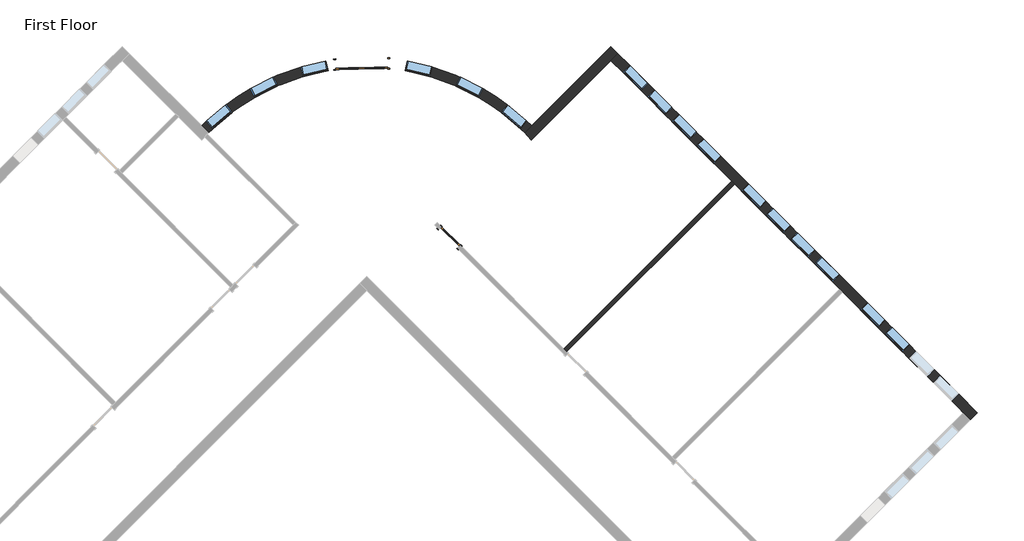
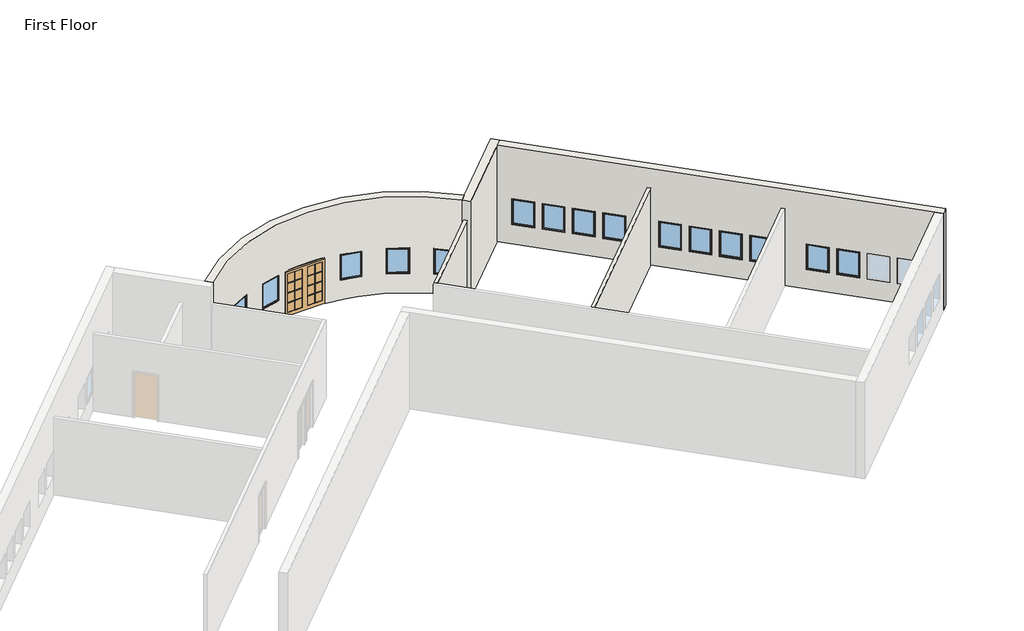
# One storey, part 2 of 2: 16 windows, 5 walls, 2 doors.
"""IFC4 building model written with IfcOpenShell, lengths in millimetres."""

from ifc_helpers import new_model, si_unit, point, frame, frame_2d, origin, origin_with_axes, place, context, project, spatial, polyline, circle_curve, trimmed, segment, composite_curve, outline, extrude, faceted_brep, transform, mapped, element, save
from ifc_brep_helpers import plane_surface, cylinder_surface, revolved_surface, advanced_brep
from components import m_double_glass_2_1830_x_2134mm_ef281dce, m_single_glass_1_0915_x_2134mm_4e5e1233, m_fixed_0915_x_1220mm_bde29121, m_fixed_0915_x_1220mm_2a2509e7

model = new_model("IFC4")

# Units and contexts
model_context = context("Model", 3, world=origin())
ifc_project = project(units=[si_unit("LENGTHUNIT", "METRE", prefix="MILLI")], contexts=[model_context])

# Site, building, storey
site = spatial("IfcSite", under=ifc_project)
building = spatial("IfcBuilding", under=site)
storey = spatial("IfcBuildingStorey", under=building, Name="First Floor", Elevation=0.0)

# Doors
placement = place(None, origin())
m_double_glass_2_1830_x_2134mm_shape = m_double_glass_2_1830_x_2134mm_ef281dce(model_context)
element("IfcDoor", 1, ObjectType="M_Double-Glass 2 : 1830 x 2134mm", at=placement, inside=storey, context=model_context, shape_type="MappedRepresentation", body=[
    mapped(m_double_glass_2_1830_x_2134mm_shape, transform((-1775.1372024, 9996.7407669, 0.0), x_axis=(-0.9997639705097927, -0.021725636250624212, 0.0), y_axis=(0.021725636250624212, -0.9997639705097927, 0.0), z_axis=(0.0, 0.0, 1.0))),
])
m_single_glass_1_0915_x_2134mm_shape = m_single_glass_1_0915_x_2134mm_4e5e1233(model_context)
element("IfcDoor", 2, ObjectType="M_Single-Glass 1 : 0915 x 2134mm", at=placement, inside=storey, context=model_context, shape_type="MappedRepresentation", body=[
    mapped(m_single_glass_1_0915_x_2134mm_shape, transform((1324.7621646, 3874.1421405, 0.0), x_axis=(-0.7071067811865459, 0.7071067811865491, 0.0), y_axis=(-0.7071067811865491, -0.7071067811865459, 0.0), z_axis=(0.0, 0.0, 1.0))),
])

# Walls
element("IfcWall", 3, ObjectType="Exterior - Brick on Mtl. Stud", at=placement, inside=storey, context=model_context, shape_type="AdvancedBrep", body=[
    advanced_brep(
    [(4212.7441701, 7313.6674352, 4572.0), (4212.7441701, 7313.6674352, 0.0), (7019.8001803, 10120.7234455, 0.0), (7267.2875537, 10368.2108189, 0.0), (7267.2875537, 10368.2108189, 4572.0), (7019.8001803, 10120.7234455, 4572.0), (3970.7557398, 7566.6537518, 0.0), (3970.7557398, 7566.6537518, 4572.0), (4218.2431133, 7814.1411252, 4572.0), (7019.8001803, 10615.6981923, 4572.0), (7019.8001803, 10615.6981923, 0.0), (4218.2431133, 7814.1411252, 0.0), (4109.8638796, 7423.9826013, 0.0), (4013.5506313, 7523.5275434, 0.0)],
    [
        (0, 1),
        (1, 2),
        (2, 3),
        (3, 4),
        (4, 5),
        (5, 0),
        (6, 7),
        (7, 8),
        (8, 9),
        (9, 10),
        (10, 11),
        (11, 6),
        (1, 12, circle_curve(frame((-1601.2456959, 1994.6523161, 0.0), z_axis=(0.0, 0.0, 1.0), x_axis=(1.0, 0.0, 0.0)), 7880.0)),
        (12, 13, circle_curve(frame((-1601.2456959, 1994.6523161, 0.0), z_axis=(0.0, 0.0, 1.0), x_axis=(1.0, 0.0, 0.0)), 7879.9999955)),
        (13, 6, circle_curve(frame((-1601.2456959, 1994.6523161, 0.0), z_axis=(0.0, 0.0, 1.0), x_axis=(1.0, 0.0, 0.0)), 7879.9999413)),
        (10, 3),
        (4, 9),
        (7, 0, circle_curve(frame((-1601.2456959, 1994.6523161, 4572.0), z_axis=(0.0, 0.0, -1.0), x_axis=(1.0, 0.0, 0.0)), 7880.0)),
    ],
    [
        plane_surface(frame((4250.0629184, 7350.9861836, 0.0), z_axis=(0.7071067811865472, -0.7071067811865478, 0.0), x_axis=(0.7071067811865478, 0.7071067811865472, 0.0))),
        plane_surface(frame((4002.575545, 7598.473557, 0.0), z_axis=(-0.7071067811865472, 0.7071067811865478, 0.0), x_axis=(-0.7071067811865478, -0.7071067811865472, 0.0))),
        plane_surface(frame((4340.6424361, 7441.5657013, 0.0), z_axis=(0.0, 0.0, -1.0), x_axis=(-0.7071067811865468, 0.7071067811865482, 0.0))),
        plane_surface(frame((7143.543867, 10244.4671322, 4572.0), z_axis=(0.0, 0.0, 1.0), x_axis=(-0.707106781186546, 0.7071067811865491, 0.0))),
        plane_surface(frame((7019.8001803, 10615.6981923, 0.0), z_axis=(0.7071067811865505, 0.7071067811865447, 0.0), x_axis=(-0.7071067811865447, 0.7071067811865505, 0.0))),
        revolved_surface(polyline([(6278.7543041, 1994.6523161, 0.0), (6278.7543041, 1994.6523161, 4572.0)]), (-1601.2456959, 1994.6523161, 0.0), (0.0, 0.0, -1.0)),
    ],
    [
        (0, [[1, 2, 3, 4, 5, 6]]),
        (1, [[7, 8, 9, 10, 11, 12]]),
        (2, [[-3, -2, 13, 14, 15, -12, -11, 16]]),
        (3, [[-6, -5, 17, -9, -8, 18]]),
        (4, [[-4, -16, -10, -17]]),
        (5, [[-18, -7, -15, -14, -13, -1]]),
    ],
),
])
element("IfcWall", 4, ObjectType="Exterior - Brick on Mtl. Stud", at=placement, inside=storey, context=model_context, shape_type="Brep", body=[
    faceted_brep([(7019.8001803, 10120.7234455, 0.0), (11281.3559738, 5859.167652, 0.0), (11379.290263, 5761.2333628, 0.0), (15096.9041651, 2043.6194607, 0.0), (15194.8384543, 1945.6851715, 0.0), (19456.3942478, -2315.870622, 0.0), (19703.8816212, -2563.3579955, 0.0), (19703.8816212, -2563.3579955, 4572.0), (19456.3942478, -2315.870622, 4572.0), (7019.8001803, 10120.7234455, 4572.0), (19041.6761207, -1901.1524949, 915.0), (18394.6734159, -1254.1497901, 915.0), (18394.6734159, -1254.1497901, 2135.0), (19041.6761207, -1901.1524949, 2135.0), (18179.7129544, -1039.1893286, 915.0), (17532.7102496, -392.1866238, 915.0), (17532.7102496, -392.1866238, 2135.0), (18179.7129544, -1039.1893286, 2135.0), (17317.7497881, -177.2261623, 915.0), (16670.7470833, 469.7765424, 915.0), (16670.7470833, 469.7765424, 2135.0), (17317.7497881, -177.2261623, 2135.0), (16455.7866219, 684.7370039, 915.0), (15808.7839171, 1331.7397087, 915.0), (15808.7839171, 1331.7397087, 2135.0), (16455.7866219, 684.7370039, 2135.0), (12257.1680181, 4883.3556077, 915.0), (11610.1653133, 5530.3583124, 915.0), (11610.1653133, 5530.3583124, 2135.0), (12257.1680181, 4883.3556077, 2135.0), (13119.1311844, 4021.3924414, 915.0), (12472.1284796, 4668.3951462, 915.0), (12472.1284796, 4668.3951462, 2135.0), (13119.1311844, 4021.3924414, 2135.0), (13981.0943507, 3159.4292751, 915.0), (13334.0916459, 3806.4319799, 915.0), (13334.0916459, 3806.4319799, 2135.0), (13981.0943507, 3159.4292751, 2135.0), (14843.0575169, 2297.4661089, 915.0), (14196.0548121, 2944.4688136, 915.0), (14196.0548121, 2944.4688136, 2135.0), (14843.0575169, 2297.4661089, 2135.0), (8081.5210123, 9059.0026135, 915.0), (7434.5183075, 9706.0053183, 915.0), (7434.5183075, 9706.0053183, 2135.0), (8081.5210123, 9059.0026135, 2135.0), (8943.4841785, 8197.0394473, 915.0), (8296.4814737, 8844.042152, 915.0), (8296.4814737, 8844.042152, 2135.0), (8943.4841785, 8197.0394473, 2135.0), (9805.4473448, 7335.076281, 915.0), (9158.44464, 7982.0789858, 915.0), (9158.44464, 7982.0789858, 2135.0), (9805.4473448, 7335.076281, 2135.0), (10667.4105111, 6473.1131147, 915.0), (10020.4078063, 7120.1158195, 915.0), (10020.4078063, 7120.1158195, 2135.0), (10667.4105111, 6473.1131147, 2135.0), (7267.2875537, 10368.2108189, 0.0), (7267.2875537, 10368.2108189, 4572.0), (19951.3689947, -2315.870622, 4572.0), (19951.3689947, -2315.870622, 0.0), (19289.1634941, -1653.6651215, 915.0), (19289.1634941, -1653.6651215, 2135.0), (18642.1607893, -1006.6624167, 2135.0), (18642.1607893, -1006.6624167, 915.0), (18427.2003278, -791.7019552, 915.0), (18427.2003278, -791.7019552, 2135.0), (17780.197623, -144.6992504, 2135.0), (17780.197623, -144.6992504, 915.0), (17565.2371615, 70.2612111, 915.0), (17565.2371615, 70.2612111, 2135.0), (16918.2344568, 717.2639159, 2135.0), (16918.2344568, 717.2639159, 915.0), (16703.2739953, 932.2243773, 915.0), (16703.2739953, 932.2243773, 2135.0), (16056.2712905, 1579.2270821, 2135.0), (16056.2712905, 1579.2270821, 915.0), (12504.6553915, 5130.8429811, 915.0), (12504.6553915, 5130.8429811, 2135.0), (11857.6526868, 5777.8456859, 2135.0), (11857.6526868, 5777.8456859, 915.0), (13366.6185578, 4268.8798148, 915.0), (13366.6185578, 4268.8798148, 2135.0), (12719.615853, 4915.8825196, 2135.0), (12719.615853, 4915.8825196, 915.0), (14228.5817241, 3406.9166485, 915.0), (14228.5817241, 3406.9166485, 2135.0), (13581.5790193, 4053.9193533, 2135.0), (13581.5790193, 4053.9193533, 915.0), (15090.5448903, 2544.9534823, 915.0), (15090.5448903, 2544.9534823, 2135.0), (14443.5421856, 3191.9561871, 2135.0), (14443.5421856, 3191.9561871, 915.0), (8329.0083857, 9306.4899869, 915.0), (8329.0083857, 9306.4899869, 2135.0), (7682.0056809, 9953.4926917, 2135.0), (7682.0056809, 9953.4926917, 915.0), (9190.971552, 8444.5268207, 915.0), (9190.971552, 8444.5268207, 2135.0), (8543.9688472, 9091.5295255, 2135.0), (8543.9688472, 9091.5295255, 915.0), (10052.9347182, 7582.5636544, 915.0), (10052.9347182, 7582.5636544, 2135.0), (9405.9320134, 8229.5663592, 2135.0), (9405.9320134, 8229.5663592, 915.0), (10914.8978845, 6720.6004881, 915.0), (10914.8978845, 6720.6004881, 2135.0), (10267.8951797, 7367.6031929, 2135.0), (10267.8951797, 7367.6031929, 915.0)], [[[0, 1, 2, 3, 4, 5, 6, 7, 8, 9], [10, 11, 12, 13], [14, 15, 16, 17], [18, 19, 20, 21], [22, 23, 24, 25], [26, 27, 28, 29], [30, 31, 32, 33], [34, 35, 36, 37], [38, 39, 40, 41], [42, 43, 44, 45], [46, 47, 48, 49], [50, 51, 52, 53], [54, 55, 56, 57]], [[58, 59, 60, 61], [62, 63, 64, 65], [66, 67, 68, 69], [70, 71, 72, 73], [74, 75, 76, 77], [78, 79, 80, 81], [82, 83, 84, 85], [86, 87, 88, 89], [90, 91, 92, 93], [94, 95, 96, 97], [98, 99, 100, 101], [102, 103, 104, 105], [106, 107, 108, 109]], [[6, 5, 4, 3, 2, 1, 0, 58, 61]], [[9, 8, 7, 60, 59]], [[0, 9, 59, 58]], [[7, 6, 61, 60]], [[63, 62, 10, 13]], [[64, 63, 13, 12]], [[65, 64, 12, 11]], [[62, 65, 11, 10]], [[67, 66, 14, 17]], [[68, 67, 17, 16]], [[69, 68, 16, 15]], [[66, 69, 15, 14]], [[71, 70, 18, 21]], [[72, 71, 21, 20]], [[73, 72, 20, 19]], [[70, 73, 19, 18]], [[75, 74, 22, 25]], [[76, 75, 25, 24]], [[77, 76, 24, 23]], [[74, 77, 23, 22]], [[79, 78, 26, 29]], [[80, 79, 29, 28]], [[81, 80, 28, 27]], [[78, 81, 27, 26]], [[83, 82, 30, 33]], [[84, 83, 33, 32]], [[85, 84, 32, 31]], [[82, 85, 31, 30]], [[87, 86, 34, 37]], [[88, 87, 37, 36]], [[89, 88, 36, 35]], [[86, 89, 35, 34]], [[91, 90, 38, 41]], [[92, 91, 41, 40]], [[93, 92, 40, 39]], [[90, 93, 39, 38]], [[95, 94, 42, 45]], [[96, 95, 45, 44]], [[97, 96, 44, 43]], [[94, 97, 43, 42]], [[99, 98, 46, 49]], [[100, 99, 49, 48]], [[101, 100, 48, 47]], [[98, 101, 47, 46]], [[103, 102, 50, 53]], [[104, 103, 53, 52]], [[105, 104, 52, 51]], [[102, 105, 51, 50]], [[107, 106, 54, 57]], [[108, 107, 57, 56]], [[109, 108, 56, 55]], [[106, 109, 55, 54]]]),
])
element("IfcWall", 5, ObjectType="Exterior - Brick on Mtl. Stud", at=placement, inside=storey, context=model_context, shape_type="AdvancedBrep", body=[
    advanced_brep(
    [(4218.2431133, 7814.1411252, 4572.0), (-7420.7345051, 7814.1411252, 4572.0), (-7173.2471317, 7566.6537518, 4572.0), (3970.7557398, 7566.6537518, 4572.0), (-7173.2471317, 7566.6537518, 0.0), (-7420.7345051, 7814.1411252, 0.0), (-2693.7232217, 10151.8205046, 0.0), (-2686.0696858, 9799.6223295, 0.0), (4218.2431133, 7814.1411252, 0.0), (3970.7557398, 7566.6537518, 0.0), (-856.5016198, 9839.3802439, 0.0), (-864.1551557, 10191.5784189, 0.0), (-864.1551557, 10191.5784189, 2134.0), (-2693.7232217, 10151.8205046, 2134.0), (-6560.8584073, 8562.3872188, 915.0), (-6560.8584073, 8562.3872188, 2135.0), (-7259.2688911, 7971.2461222, 2135.0), (-7259.2688911, 7971.2461222, 915.0), (-3038.6037285, 10098.1640169, 915.0), (-3038.6037285, 10098.1640169, 2135.0), (-3929.264468, 9888.5251676, 2135.0), (-3929.264468, 9888.5251676, 915.0), (-4890.6166492, 9538.7187747, 915.0), (-4890.6166492, 9538.7187747, 2135.0), (-5707.7291441, 9126.9516431, 2135.0), (-5707.7291441, 9126.9516431, 915.0), (1688.1252574, 9538.7187747, 2135.0), (1688.1252574, 9538.7187747, 915.0), (2505.2377523, 9126.9516431, 915.0), (2505.2377523, 9126.9516431, 2135.0), (-163.8876633, 10098.1640169, 2135.0), (-163.8876633, 10098.1640169, 915.0), (726.7730762, 9888.5251676, 915.0), (726.7730762, 9888.5251676, 2135.0), (3358.3670155, 8562.3872188, 2135.0), (3358.3670155, 8562.3872188, 915.0), (4056.7774992, 7971.2461222, 915.0), (4056.7774992, 7971.2461222, 2135.0), (-2686.0696858, 9799.6223295, 2134.0), (-856.5016198, 9839.3802439, 2134.0), (-6334.373084, 8294.8035149, 915.0), (-7032.7835678, 7703.6624182, 915.0), (-7032.7835678, 7703.6624182, 2135.0), (-6334.373084, 8294.8035149, 2135.0), (-2958.2842873, 9756.9230059, 2135.0), (-2958.2842873, 9756.9230059, 915.0), (-3848.9450268, 9547.2841566, 915.0), (-3848.9450268, 9547.2841566, 2135.0), (-4732.8553085, 9225.6564811, 2135.0), (-4732.8553085, 9225.6564811, 915.0), (-5549.9678034, 8813.8893495, 915.0), (-5549.9678034, 8813.8893495, 2135.0), (1530.3639167, 9225.6564811, 915.0), (1530.3639167, 9225.6564811, 2135.0), (2347.4764116, 8813.8893495, 2135.0), (2347.4764116, 8813.8893495, 915.0), (-244.2071045, 9756.9230059, 915.0), (-244.2071045, 9756.9230059, 2135.0), (646.453635, 9547.2841566, 2135.0), (646.453635, 9547.2841566, 915.0), (3131.8816922, 8294.8035149, 915.0), (3131.8816922, 8294.8035149, 2135.0), (3830.2921759, 7703.6624182, 2135.0), (3830.2921759, 7703.6624182, 915.0)],
    [
        (0, 1, circle_curve(frame((-1601.2456959, 1994.6523161, 4572.0), z_axis=(0.0, 0.0, 1.0), x_axis=(1.0, 0.0, 0.0)), 8230.0)),
        (1, 2),
        (2, 3, circle_curve(frame((-1601.2456959, 1994.6523161, 4572.0), z_axis=(0.0, 0.0, -1.0), x_axis=(1.0, 0.0, 0.0)), 7880.0)),
        (3, 0),
        (4, 5),
        (5, 6, circle_curve(frame((-1601.2456959, 1994.6523161, 0.0), z_axis=(0.0, 0.0, -1.0), x_axis=(1.0, 0.0, 0.0)), 8230.0)),
        (6, 7),
        (7, 4, circle_curve(frame((-1601.2456959, 1994.6523161, 0.0), z_axis=(0.0, 0.0, 1.0), x_axis=(1.0, 0.0, 0.0)), 7880.0)),
        (8, 9),
        (9, 10, circle_curve(frame((-1601.2456959, 1994.6523161, 0.0), z_axis=(0.0, 0.0, 1.0), x_axis=(1.0, 0.0, 0.0)), 7880.0)),
        (10, 11),
        (11, 8, circle_curve(frame((-1601.2456959, 1994.6523161, 0.0), z_axis=(0.0, 0.0, -1.0), x_axis=(1.0, 0.0, 0.0)), 8230.0)),
        (0, 8),
        (11, 12),
        (12, 13, circle_curve(frame((-1601.2456959, 1994.6523161, 2134.0), z_axis=(0.0, 0.0, 1.0), x_axis=(1.0, 0.0, 0.0)), 8230.0)),
        (13, 6),
        (5, 1),
        (14, 15),
        (15, 16, circle_curve(frame((-1601.2456959, 1994.6523161, 2135.0), z_axis=(0.0, 0.0, 1.0), x_axis=(1.0, 0.0, 0.0)), 8230.0)),
        (16, 17),
        (17, 14, circle_curve(frame((-1601.2456959, 1994.6523161, 915.0), z_axis=(0.0, 0.0, -1.0), x_axis=(1.0, 0.0, 0.0)), 8230.0)),
        (18, 19),
        (19, 20, circle_curve(frame((-1601.2456959, 1994.6523161, 2135.0), z_axis=(0.0, 0.0, 1.0), x_axis=(1.0, 0.0, 0.0)), 8230.0)),
        (20, 21),
        (21, 18, circle_curve(frame((-1601.2456959, 1994.6523161, 915.0), z_axis=(0.0, 0.0, -1.0), x_axis=(1.0, 0.0, 0.0)), 8230.0)),
        (22, 23),
        (23, 24, circle_curve(frame((-1601.2456959, 1994.6523161, 2135.0), z_axis=(0.0, 0.0, 1.0), x_axis=(1.0, 0.0, 0.0)), 8230.0)),
        (24, 25),
        (25, 22, circle_curve(frame((-1601.2456959, 1994.6523161, 915.0), z_axis=(0.0, 0.0, -1.0), x_axis=(1.0, 0.0, 0.0)), 8230.0)),
        (26, 27),
        (27, 28, circle_curve(frame((-1601.2456959, 1994.6523161, 915.0), z_axis=(0.0, 0.0, -1.0), x_axis=(1.0, 0.0, 0.0)), 8230.0)),
        (28, 29),
        (29, 26, circle_curve(frame((-1601.2456959, 1994.6523161, 2135.0), z_axis=(0.0, 0.0, 1.0), x_axis=(1.0, 0.0, 0.0)), 8230.0)),
        (30, 31),
        (31, 32, circle_curve(frame((-1601.2456959, 1994.6523161, 915.0), z_axis=(0.0, 0.0, -1.0), x_axis=(1.0, 0.0, 0.0)), 8230.0)),
        (32, 33),
        (33, 30, circle_curve(frame((-1601.2456959, 1994.6523161, 2135.0), z_axis=(0.0, 0.0, 1.0), x_axis=(1.0, 0.0, 0.0)), 8230.0)),
        (34, 35),
        (35, 36, circle_curve(frame((-1601.2456959, 1994.6523161, 915.0), z_axis=(0.0, 0.0, -1.0), x_axis=(1.0, 0.0, 0.0)), 8230.0)),
        (36, 37),
        (37, 34, circle_curve(frame((-1601.2456959, 1994.6523161, 2135.0), z_axis=(0.0, 0.0, 1.0), x_axis=(1.0, 0.0, 0.0)), 8230.0)),
        (2, 4),
        (7, 38),
        (38, 39, circle_curve(frame((-1601.2456959, 1994.6523161, 2134.0), z_axis=(0.0, 0.0, -1.0), x_axis=(1.0, 0.0, 0.0)), 7880.0)),
        (39, 10),
        (9, 3),
        (40, 41, circle_curve(frame((-1601.2456959, 1994.6523161, 915.0), z_axis=(0.0, 0.0, 1.0), x_axis=(1.0, 0.0, 0.0)), 7880.0)),
        (41, 42),
        (42, 43, circle_curve(frame((-1601.2456959, 1994.6523161, 2135.0), z_axis=(0.0, 0.0, -1.0), x_axis=(1.0, 0.0, 0.0)), 7880.0)),
        (43, 40),
        (44, 45),
        (45, 46, circle_curve(frame((-1601.2456959, 1994.6523161, 915.0), z_axis=(0.0, 0.0, 1.0), x_axis=(1.0, 0.0, 0.0)), 7880.0)),
        (46, 47),
        (47, 44, circle_curve(frame((-1601.2456959, 1994.6523161, 2135.0), z_axis=(0.0, 0.0, -1.0), x_axis=(1.0, 0.0, 0.0)), 7880.0)),
        (48, 49),
        (49, 50, circle_curve(frame((-1601.2456959, 1994.6523161, 915.0), z_axis=(0.0, 0.0, 1.0), x_axis=(1.0, 0.0, 0.0)), 7880.0)),
        (50, 51),
        (51, 48, circle_curve(frame((-1601.2456959, 1994.6523161, 2135.0), z_axis=(0.0, 0.0, -1.0), x_axis=(1.0, 0.0, 0.0)), 7880.0)),
        (52, 53),
        (53, 54, circle_curve(frame((-1601.2456959, 1994.6523161, 2135.0), z_axis=(0.0, 0.0, -1.0), x_axis=(1.0, 0.0, 0.0)), 7880.0)),
        (54, 55),
        (55, 52, circle_curve(frame((-1601.2456959, 1994.6523161, 915.0), z_axis=(0.0, 0.0, 1.0), x_axis=(1.0, 0.0, 0.0)), 7880.0)),
        (56, 57),
        (57, 58, circle_curve(frame((-1601.2456959, 1994.6523161, 2135.0), z_axis=(0.0, 0.0, -1.0), x_axis=(1.0, 0.0, 0.0)), 7880.0)),
        (58, 59),
        (59, 56, circle_curve(frame((-1601.2456959, 1994.6523161, 915.0), z_axis=(0.0, 0.0, 1.0), x_axis=(1.0, 0.0, 0.0)), 7880.0)),
        (60, 61),
        (61, 62, circle_curve(frame((-1601.2456959, 1994.6523161, 2135.0), z_axis=(0.0, 0.0, -1.0), x_axis=(1.0, 0.0, 0.0)), 7880.0)),
        (62, 63),
        (63, 60, circle_curve(frame((-1601.2456959, 1994.6523161, 915.0), z_axis=(0.0, 0.0, 1.0), x_axis=(1.0, 0.0, 0.0)), 7880.0)),
        (13, 38),
        (12, 39),
        (14, 40),
        (43, 15),
        (42, 16),
        (41, 17),
        (18, 45),
        (44, 19),
        (47, 20),
        (46, 21),
        (22, 49),
        (48, 23),
        (51, 24),
        (50, 25),
        (52, 27),
        (26, 53),
        (29, 54),
        (28, 55),
        (56, 31),
        (30, 57),
        (33, 58),
        (32, 59),
        (60, 35),
        (34, 61),
        (37, 62),
        (36, 63),
    ],
    [
        plane_surface(frame((6628.7543041, 1994.6523161, 4572.0), z_axis=(0.0, 0.0, 1.0), x_axis=(0.0, 1.0, 0.0))),
        plane_surface(frame((6628.7543041, 1994.6523161, 0.0), z_axis=(0.0, 0.0, -1.0), x_axis=(0.0, -1.0, 0.0))),
        cylinder_surface(frame((-1601.2456959, 1994.6523161, 0.0), z_axis=(0.0, 0.0, 1.0), x_axis=(1.0, 0.0, 0.0)), 8230.0),
        revolved_surface(polyline([(6278.7543041, 1994.6523161, 0.0), (6278.7543041, 1994.6523161, 4572.0)]), (-1601.2456959, 1994.6523161, 0.0), (0.0, 0.0, -1.0)),
        plane_surface(frame((-10222.2915721, 10615.6981923, 0.0), z_axis=(-0.7071067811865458, -0.7071067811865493, 0.0), x_axis=(-0.7071067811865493, 0.7071067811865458, 0.0))),
        plane_surface(frame((4002.575545, 7598.473557, 0.0), z_axis=(0.7071067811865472, -0.7071067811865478, 0.0), x_axis=(-0.7071067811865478, -0.7071067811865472, 0.0))),
        plane_surface(frame((-2726.8330914, 11675.4607956, 0.0), z_axis=(0.9997639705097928, 0.021725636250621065, 0.0), x_axis=(0.021725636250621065, -0.9997639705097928, 0.0))),
        plane_surface(frame((-2726.8330914, 11675.4607956, 2134.0), z_axis=(0.0, 0.0, -1.0000000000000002), x_axis=(0.021725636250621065, -0.9997639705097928, 0.0))),
        plane_surface(frame((-897.2650253, 11715.21871, 2134.0), z_axis=(-0.9997639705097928, -0.021725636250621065, 0.0), x_axis=(0.021725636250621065, -0.9997639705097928, 0.0))),
        plane_surface(frame((-6560.8584073, 8562.3872188, 915.0), z_axis=(-0.7632901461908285, -0.6460558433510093, 0.0), x_axis=(0.6460558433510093, -0.7632901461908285, 0.0))),
        plane_surface(frame((-6560.8584073, 8562.3872188, 2135.0), z_axis=(0.0, 0.0, -1.0000000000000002), x_axis=(0.6460558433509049, -0.7632901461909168, 0.0))),
        plane_surface(frame((-7259.2688911, 7971.2461222, 2135.0), z_axis=(0.7632901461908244, 0.6460558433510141, 0.0), x_axis=(0.6460558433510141, -0.7632901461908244, 0.0))),
        plane_surface(frame((-7259.2688911, 7971.2461222, 915.0), z_axis=(0.0, 0.0, 1.0), x_axis=(0.6460558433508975, -0.7632901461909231, 0.0))),
        plane_surface(frame((-2689.4347599, 8614.7028508, 915.0), z_axis=(-0.9733997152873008, -0.22911349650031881, 0.0), x_axis=(-0.22911349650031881, 0.9733997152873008, 0.0))),
        plane_surface(frame((-2689.4347599, 8614.7028508, 2135.0), z_axis=(0.0, 0.0, -1.0), x_axis=(-0.22911349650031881, 0.9733997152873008, 0.0))),
        plane_surface(frame((-3580.0954993, 8405.0640015, 2135.0), z_axis=(0.9733997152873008, 0.2291134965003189, 0.0), x_axis=(-0.2291134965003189, 0.9733997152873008, 0.0))),
        plane_surface(frame((-3580.0954993, 8405.0640015, 915.0), z_axis=(0.0, 0.0, 1.0), x_axis=(-0.2291134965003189, 0.9733997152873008, 0.0))),
        plane_surface(frame((-4890.6166492, 9538.7187747, 915.0), z_axis=(-0.893019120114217, -0.45001872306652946, 0.0), x_axis=(0.45001872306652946, -0.893019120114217, 0.0))),
        plane_surface(frame((-4890.6166492, 9538.7187747, 2135.0), z_axis=(0.0, 0.0, -1.0), x_axis=(0.4500187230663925, -0.893019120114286, 0.0))),
        plane_surface(frame((-5707.7291441, 9126.9516431, 2135.0), z_axis=(0.8930191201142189, 0.4500187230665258, 0.0), x_axis=(0.4500187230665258, -0.8930191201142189, 0.0))),
        plane_surface(frame((-5707.7291441, 9126.9516431, 915.0), z_axis=(0.0, 0.0, 1.0), x_axis=(0.4500187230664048, -0.8930191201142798, 0.0))),
        plane_surface(frame((1530.3639167, 9225.6564811, 915.0), z_axis=(0.8930191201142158, -0.45001872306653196, 0.0), x_axis=(0.45001872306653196, 0.8930191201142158, 0.0))),
        plane_surface(frame((1530.3639167, 9225.6564811, 2135.0), z_axis=(0.0, 0.0, -1.0000000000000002), x_axis=(0.4500187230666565, 0.8930191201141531, 0.0))),
        plane_surface(frame((2347.4764116, 8813.8893495, 2135.0), z_axis=(-0.8930191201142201, 0.4500187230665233, 0.0), x_axis=(0.4500187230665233, 0.8930191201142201, 0.0))),
        plane_surface(frame((2347.4764116, 8813.8893495, 915.0), z_axis=(0.0, 0.0, 1.0000000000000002), x_axis=(0.45001872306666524, 0.8930191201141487, 0.0))),
        plane_surface(frame((-244.2071045, 9756.9230059, 915.0), z_axis=(0.9733997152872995, -0.22911349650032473, 0.0), x_axis=(0.22911349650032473, 0.9733997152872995, 0.0))),
        plane_surface(frame((-244.2071045, 9756.9230059, 2135.0), z_axis=(0.0, 0.0, -1.0), x_axis=(0.2291134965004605, 0.9733997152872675, 0.0))),
        plane_surface(frame((646.453635, 9547.2841566, 2135.0), z_axis=(-0.9733997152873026, 0.22911349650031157, 0.0), x_axis=(0.22911349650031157, 0.9733997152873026, 0.0))),
        plane_surface(frame((646.453635, 9547.2841566, 915.0), z_axis=(0.0, 0.0, 1.0000000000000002), x_axis=(0.22911349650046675, 0.9733997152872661, 0.0))),
        plane_surface(frame((3131.8816922, 8294.8035149, 915.0), z_axis=(0.7632901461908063, -0.6460558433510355, 0.0), x_axis=(0.6460558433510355, 0.7632901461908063, 0.0))),
        plane_surface(frame((3131.8816922, 8294.8035149, 2135.0), z_axis=(0.0, 0.0, -1.0), x_axis=(0.646055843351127, 0.7632901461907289, 0.0))),
        plane_surface(frame((3830.2921759, 7703.6624182, 2135.0), z_axis=(-0.76329014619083, 0.6460558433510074, 0.0), x_axis=(0.6460558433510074, 0.76329014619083, 0.0))),
        plane_surface(frame((3830.2921759, 7703.6624182, 915.0), z_axis=(0.0, 0.0, 1.0), x_axis=(0.6460558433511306, 0.7632901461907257, 0.0))),
    ],
    [
        (0, [[1, 2, 3, 4]]),
        (1, [[5, 6, 7, 8]]),
        (1, [[9, 10, 11, 12]]),
        (2, [[-1, 13, -12, 14, 15, 16, -6, 17], [18, 19, 20, 21], [22, 23, 24, 25], [26, 27, 28, 29], [30, 31, 32, 33], [34, 35, 36, 37], [38, 39, 40, 41]]),
        (3, [[-3, 42, -8, 43, 44, 45, -10, 46], [47, 48, 49, 50], [51, 52, 53, 54], [55, 56, 57, 58], [59, 60, 61, 62], [63, 64, 65, 66], [67, 68, 69, 70]]),
        (4, [[-2, -17, -5, -42]]),
        (5, [[-4, -46, -9, -13]]),
        (6, [[71, -43, -7, -16]]),
        (7, [[-71, -15, 72, -44]]),
        (8, [[-72, -14, -11, -45]]),
        (9, [[-18, 73, -50, 74]]),
        (10, [[-19, -74, -49, 75]]),
        (11, [[-20, -75, -48, 76]]),
        (12, [[-21, -76, -47, -73]]),
        (13, [[77, -51, 78, -22]]),
        (14, [[-78, -54, 79, -23]]),
        (15, [[-79, -53, 80, -24]]),
        (16, [[-77, -25, -80, -52]]),
        (17, [[-26, 81, -55, 82]]),
        (18, [[-27, -82, -58, 83]]),
        (19, [[-28, -83, -57, 84]]),
        (20, [[-29, -84, -56, -81]]),
        (21, [[-59, 85, -30, 86]]),
        (22, [[-60, -86, -33, 87]]),
        (23, [[-61, -87, -32, 88]]),
        (24, [[-62, -88, -31, -85]]),
        (25, [[-63, 89, -34, 90]]),
        (26, [[-64, -90, -37, 91]]),
        (27, [[-65, -91, -36, 92]]),
        (28, [[-66, -92, -35, -89]]),
        (29, [[-67, 93, -38, 94]]),
        (30, [[-68, -94, -41, 95]]),
        (31, [[-69, -95, -40, 96]]),
        (32, [[-70, -96, -39, -93]]),
    ],
),
])
element("IfcWall", 6, ObjectType="Interior - 138mm Partition (1-hr)", at=placement, inside=storey, context=model_context, shape_type="SweptSolid", body=[
    extrude(outline(composite_curve([segment(polyline([(4109.8652288, 7423.9811885), (991.3613173, 4305.477277), (893.4270281, 4403.4115662), (4013.5468892, 7523.5314273)]), True, "CONTINUOUS"), segment(trimmed(circle_curve(frame_2d((-1601.2456959, 1994.6523161)), 7880.0), [point((4013.5468892, 7523.5314273))], [point((4109.8652288, 7423.9811885))], False, "CARTESIAN"), True, "CONTINUOUS")], self_intersect=False)), origin_with_axes(), (0.0, 0.0, 1.0), 3658.0),
])
element("IfcWall", 7, ObjectType="Interior - 138mm Partition (1-hr)", at=placement, inside=storey, context=model_context, shape_type="SweptSolid", body=[
    extrude(outline(polyline([(11379.290263, 5761.2333628), (5457.4477473, -160.609153), (5359.5134581, -62.6748638), (11281.3559738, 5859.167652), (11379.290263, 5761.2333628)])), origin_with_axes(), (0.0, 0.0, 1.0), 3658.0),
])

# Windows
m_fixed_0915_x_1220mm_shape = m_fixed_0915_x_1220mm_bde29121(model_context)
element("IfcWindow", 8, ObjectType="M_Fixed : 0915 x 1220mm", at=placement, inside=storey, context=model_context, shape_type="MappedRepresentation", body=[
    mapped(m_fixed_0915_x_1220mm_shape, transform((-6805.4026025, 8143.1636668, 0.0), x_axis=(-0.7632901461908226, -0.6460558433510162, 0.0), y_axis=(0.6460558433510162, -0.7632901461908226, 0.0), z_axis=(0.0, 0.0, 1.0))),
])
element("IfcWindow", 9, ObjectType="M_Fixed : 0915 x 1220mm", at=placement, inside=storey, context=model_context, shape_type="MappedRepresentation", body=[
    mapped(m_fixed_0915_x_1220mm_shape, transform((-3446.8177118, 9835.6538384, 0.0), x_axis=(-0.9733997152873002, -0.22911349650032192, 0.0), y_axis=(0.22911349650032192, -0.9733997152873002, 0.0), z_axis=(0.0, 0.0, 1.0))),
])
element("IfcWindow", 10, ObjectType="M_Fixed : 0915 x 1220mm", at=placement, inside=storey, context=model_context, shape_type="MappedRepresentation", body=[
    mapped(m_fixed_0915_x_1220mm_shape, transform((-5226.2698635, 9188.1661114, 0.0), x_axis=(-0.8930191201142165, -0.45001872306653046, 0.0), y_axis=(0.45001872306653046, -0.8930191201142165, 0.0), z_axis=(0.0, 0.0, 1.0))),
])
element("IfcWindow", 11, ObjectType="M_Fixed : 0915 x 1220mm", at=placement, inside=storey, context=model_context, shape_type="MappedRepresentation", body=[
    mapped(m_fixed_0915_x_1220mm_shape, transform((17127.1845106, 279.2112649, 0.0), x_axis=(-0.7071067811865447, 0.7071067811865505, 0.0), y_axis=(-0.7071067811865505, -0.7071067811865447, 0.0), z_axis=(0.0, 0.0, 1.0))),
])
element("IfcWindow", 12, ObjectType="M_Fixed : 0915 x 1220mm", at=placement, inside=storey, context=model_context, shape_type="MappedRepresentation", body=[
    mapped(m_fixed_0915_x_1220mm_shape, transform((16265.2213443, 1141.1744312, 0.0), x_axis=(-0.7071067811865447, 0.7071067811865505, 0.0), y_axis=(-0.7071067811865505, -0.7071067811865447, 0.0), z_axis=(0.0, 0.0, 1.0))),
])
element("IfcWindow", 13, ObjectType="M_Fixed : 0915 x 1220mm", at=placement, inside=storey, context=model_context, shape_type="MappedRepresentation", body=[
    mapped(m_fixed_0915_x_1220mm_shape, transform((14652.4922394, 2753.9035361, 0.0), x_axis=(-0.7071067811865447, 0.7071067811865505, 0.0), y_axis=(-0.7071067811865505, -0.7071067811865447, 0.0), z_axis=(0.0, 0.0, 1.0))),
])
element("IfcWindow", 14, ObjectType="M_Fixed : 0915 x 1220mm", at=placement, inside=storey, context=model_context, shape_type="MappedRepresentation", body=[
    mapped(m_fixed_0915_x_1220mm_shape, transform((13790.5290731, 3615.8667024, 0.0), x_axis=(-0.7071067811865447, 0.7071067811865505, 0.0), y_axis=(-0.7071067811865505, -0.7071067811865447, 0.0), z_axis=(0.0, 0.0, 1.0))),
])
element("IfcWindow", 15, ObjectType="M_Fixed : 0915 x 1220mm", at=placement, inside=storey, context=model_context, shape_type="MappedRepresentation", body=[
    mapped(m_fixed_0915_x_1220mm_shape, transform((12928.5659069, 4477.8298686, 0.0), x_axis=(-0.7071067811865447, 0.7071067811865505, 0.0), y_axis=(-0.7071067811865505, -0.7071067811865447, 0.0), z_axis=(0.0, 0.0, 1.0))),
])
element("IfcWindow", 16, ObjectType="M_Fixed : 0915 x 1220mm", at=placement, inside=storey, context=model_context, shape_type="MappedRepresentation", body=[
    mapped(m_fixed_0915_x_1220mm_shape, transform((12066.6027406, 5339.7930349, 0.0), x_axis=(-0.7071067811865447, 0.7071067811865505, 0.0), y_axis=(-0.7071067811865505, -0.7071067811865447, 0.0), z_axis=(0.0, 0.0, 1.0))),
])
element("IfcWindow", 17, ObjectType="M_Fixed : 0915 x 1220mm", at=placement, inside=storey, context=model_context, shape_type="MappedRepresentation", body=[
    mapped(m_fixed_0915_x_1220mm_shape, transform((7890.9557347, 9515.4400408, 0.0), x_axis=(-0.7071067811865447, 0.7071067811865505, 0.0), y_axis=(-0.7071067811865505, -0.7071067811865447, 0.0), z_axis=(0.0, 0.0, 1.0))),
])
element("IfcWindow", 18, ObjectType="M_Fixed : 0915 x 1220mm", at=placement, inside=storey, context=model_context, shape_type="MappedRepresentation", body=[
    mapped(m_fixed_0915_x_1220mm_shape, transform((8752.918901, 8653.4768745, 0.0), x_axis=(-0.7071067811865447, 0.7071067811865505, 0.0), y_axis=(-0.7071067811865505, -0.7071067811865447, 0.0), z_axis=(0.0, 0.0, 1.0))),
])
element("IfcWindow", 19, ObjectType="M_Fixed : 0915 x 1220mm", at=placement, inside=storey, context=model_context, shape_type="MappedRepresentation", body=[
    mapped(m_fixed_0915_x_1220mm_shape, transform((9614.8820673, 7791.5137082, 0.0), x_axis=(-0.7071067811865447, 0.7071067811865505, 0.0), y_axis=(-0.7071067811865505, -0.7071067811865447, 0.0), z_axis=(0.0, 0.0, 1.0))),
])
element("IfcWindow", 20, ObjectType="M_Fixed : 0915 x 1220mm", at=placement, inside=storey, context=model_context, shape_type="MappedRepresentation", body=[
    mapped(m_fixed_0915_x_1220mm_shape, transform((10476.8452335, 6929.550542, 0.0), x_axis=(-0.7071067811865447, 0.7071067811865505, 0.0), y_axis=(-0.7071067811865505, -0.7071067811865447, 0.0), z_axis=(0.0, 0.0, 1.0))),
])
m_fixed_0915_x_1220mm_2_shape = m_fixed_0915_x_1220mm_2a2509e7(model_context)
element("IfcWindow", 21, ObjectType="M_Fixed : 0915 x 1220mm", at=placement, inside=storey, context=model_context, shape_type="MappedRepresentation", body=[
    mapped(m_fixed_0915_x_1220mm_2_shape, transform((3602.9112107, 8143.1636668, 0.0), x_axis=(0.7632901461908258, -0.6460558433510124, 0.0), y_axis=(0.6460558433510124, 0.7632901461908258, 0.0), z_axis=(0.0, 0.0, 1.0))),
])
element("IfcWindow", 22, ObjectType="M_Fixed : 0915 x 1220mm", at=placement, inside=storey, context=model_context, shape_type="MappedRepresentation", body=[
    mapped(m_fixed_0915_x_1220mm_2_shape, transform((244.32632, 9835.6538384, 0.0), x_axis=(0.9733997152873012, -0.2291134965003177, 0.0), y_axis=(0.2291134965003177, 0.9733997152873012, 0.0), z_axis=(0.0, 0.0, 1.0))),
])
element("IfcWindow", 23, ObjectType="M_Fixed : 0915 x 1220mm", at=placement, inside=storey, context=model_context, shape_type="MappedRepresentation", body=[
    mapped(m_fixed_0915_x_1220mm_2_shape, transform((2023.7784717, 9188.1661114, 0.0), x_axis=(0.8930191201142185, -0.4500187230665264, 0.0), y_axis=(0.4500187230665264, 0.8930191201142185, 0.0), z_axis=(0.0, 0.0, 1.0))),
])

save(model, "model.ifc")
